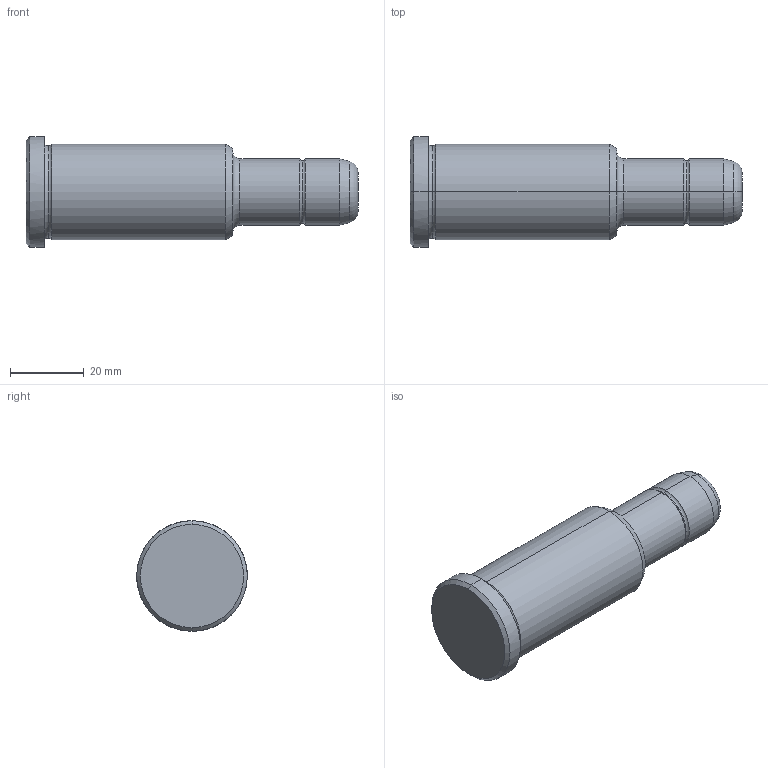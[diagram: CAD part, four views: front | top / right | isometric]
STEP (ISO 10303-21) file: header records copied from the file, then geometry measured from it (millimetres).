
FILE_DESCRIPTION(('CATIA V5 STEP Exchange'),'2;1');
FILE_NAME('C:\Users\Utente\Desktop\IO LAVORO\3D X SITO CF\X SITO\PLASTICA\351\351-18X56X90.stp','2021-08-18T13:02:51+00:00',('none'),('none'),'CATIA Version 5 Release 20 GA (IN-10)','CATIA V5 STEP AP203','none');
FILE_SCHEMA(('CONFIG_CONTROL_DESIGN'));
Length unit declared in the file: millimetre
Products named in the file (1): 351-18X56X90
Bounding box: 90 x 30 x 30 mm (x, y, z)
Volume: 38862.9 mm3; surface area: 7722 mm2
Topology: 1 solids, 1 shells, 30 faces, 86 edges, 60 vertices
Faces by surface type: torus 12, cylinder 8, cone 6, plane 4
Entity records: 1112 total; most frequent: CARTESIAN_POINT 289, ORIENTED_EDGE 172, DIRECTION 138, AXIS2_PLACEMENT_3D 95, EDGE_CURVE 86, CIRCLE 64, VERTEX_POINT 60, EDGE_LOOP 32
